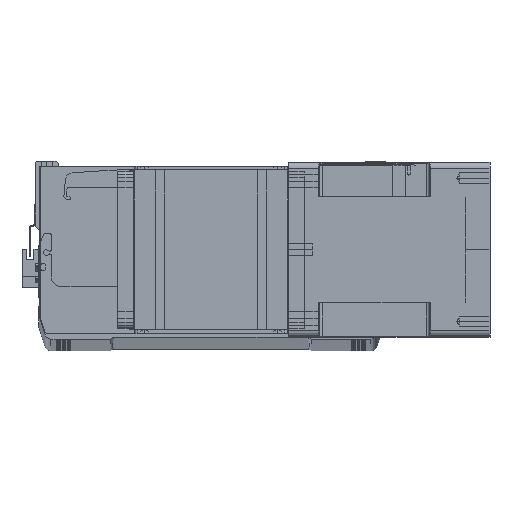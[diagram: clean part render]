
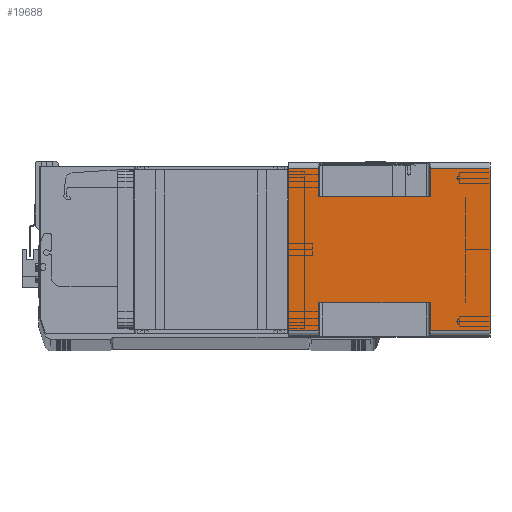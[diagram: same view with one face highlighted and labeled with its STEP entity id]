
A CAD part, top view. The second image highlights one B-rep face of the part: STEP entity #19688.
In plain terms, the highlighted planar face has unit normal (0, 0, 1) as drawn and (1, 0, 0) by its records, which use the part's own axes.
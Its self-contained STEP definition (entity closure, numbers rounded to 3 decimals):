
#141 = DIRECTION ( 'NONE',  ( 0., 0., 1. ) ) ;
#364 = LINE ( 'NONE', #34054, #32592 ) ;
#416 = LINE ( 'NONE', #16275, #1408 ) ;
#656 = VERTEX_POINT ( 'NONE', #5210 ) ;
#716 = LINE ( 'NONE', #34697, #8170 ) ;
#762 = EDGE_CURVE ( 'NONE', #12448, #656, #7923, .T. ) ;
#1408 = VECTOR ( 'NONE', #22645, 1000. ) ;
#1857 = CARTESIAN_POINT ( 'NONE',  ( 71., -66., -24.5 ) ) ;
#3223 = EDGE_CURVE ( 'NONE', #37492, #8177, #14993, .T. ) ;
#3240 = CARTESIAN_POINT ( 'NONE',  ( 71., 66., 0. ) ) ;
#3794 = EDGE_CURVE ( 'NONE', #39818, #7992, #38166, .T. ) ;
#4359 = EDGE_CURVE ( 'NONE', #18501, #10199, #416, .T. ) ;
#4501 = VECTOR ( 'NONE', #27145, 1000. ) ;
#5206 = ORIENTED_EDGE ( 'NONE', *, *, #35866, .F. ) ;
#5210 = CARTESIAN_POINT ( 'NONE',  ( 71., 43., -115.5 ) ) ;
#5257 = DIRECTION ( 'NONE',  ( 0., 0., 1. ) ) ;
#5311 = CARTESIAN_POINT ( 'NONE',  ( 71., -43., -164. ) ) ;
#5693 = VECTOR ( 'NONE', #34926, 1000. ) ;
#7303 = LINE ( 'NONE', #17532, #18590 ) ;
#7923 = LINE ( 'NONE', #8792, #15265 ) ;
#7981 = VERTEX_POINT ( 'NONE', #33861 ) ;
#7992 = VERTEX_POINT ( 'NONE', #21860 ) ;
#8170 = VECTOR ( 'NONE', #9602, 1000. ) ;
#8177 = VERTEX_POINT ( 'NONE', #38381 ) ;
#8792 = CARTESIAN_POINT ( 'NONE',  ( 71., 43., -115.5 ) ) ;
#9143 = ORIENTED_EDGE ( 'NONE', *, *, #18722, .T. ) ;
#9370 = EDGE_CURVE ( 'NONE', #8177, #12448, #14843, .T. ) ;
#9425 = DIRECTION ( 'NONE',  ( 1., 0., 0. ) ) ;
#9438 = FACE_OUTER_BOUND ( 'NONE', #11247, .T. ) ;
#9602 = DIRECTION ( 'NONE',  ( 0., 1., 0. ) ) ;
#9700 = CARTESIAN_POINT ( 'NONE',  ( 71., -66., -164. ) ) ;
#10199 = VERTEX_POINT ( 'NONE', #22050 ) ;
#11106 = DIRECTION ( 'NONE',  ( 0., 0., 1. ) ) ;
#11247 = EDGE_LOOP ( 'NONE', ( #13916, #34101, #5206, #17213, #39223, #28610, #37716, #39077, #9143, #21667, #12091, #23355 ) ) ;
#11448 = CARTESIAN_POINT ( 'NONE',  ( 71., -66., -164. ) ) ;
#12091 = ORIENTED_EDGE ( 'NONE', *, *, #34476, .F. ) ;
#12170 = CARTESIAN_POINT ( 'NONE',  ( 71., 43., -164. ) ) ;
#12448 = VERTEX_POINT ( 'NONE', #39377 ) ;
#13245 = LINE ( 'NONE', #19464, #35037 ) ;
#13355 = EDGE_CURVE ( 'NONE', #39701, #10199, #24407, .T. ) ;
#13760 = CARTESIAN_POINT ( 'NONE',  ( 71., 43., -24.5 ) ) ;
#13916 = ORIENTED_EDGE ( 'NONE', *, *, #13355, .F. ) ;
#14843 = LINE ( 'NONE', #19029, #22268 ) ;
#14993 = LINE ( 'NONE', #11448, #27860 ) ;
#15265 = VECTOR ( 'NONE', #30908, 1000. ) ;
#16275 = CARTESIAN_POINT ( 'NONE',  ( 71., -43., -24.5 ) ) ;
#16625 = CARTESIAN_POINT ( 'NONE',  ( 71., -43., -115.5 ) ) ;
#17099 = VECTOR ( 'NONE', #34373, 1000. ) ;
#17213 = ORIENTED_EDGE ( 'NONE', *, *, #3223, .T. ) ;
#17532 = CARTESIAN_POINT ( 'NONE',  ( 71., -66., -164. ) ) ;
#17861 = VERTEX_POINT ( 'NONE', #3240 ) ;
#18501 = VERTEX_POINT ( 'NONE', #25585 ) ;
#18590 = VECTOR ( 'NONE', #23839, 1000. ) ;
#18722 = EDGE_CURVE ( 'NONE', #7992, #17861, #39368, .T. ) ;
#19029 = CARTESIAN_POINT ( 'NONE',  ( 71., 66., -164. ) ) ;
#19290 = DIRECTION ( 'NONE',  ( 0., 1., 0. ) ) ;
#19464 = CARTESIAN_POINT ( 'NONE',  ( 71., -66., -115.5 ) ) ;
#19688 = ADVANCED_FACE ( 'NONE', ( #9438 ), #31964, .T. ) ;
#19929 = VECTOR ( 'NONE', #11106, 1000. ) ;
#21124 = EDGE_CURVE ( 'NONE', #39818, #656, #40972, .T. ) ;
#21667 = ORIENTED_EDGE ( 'NONE', *, *, #26299, .F. ) ;
#21860 = CARTESIAN_POINT ( 'NONE',  ( 71., 66., -24.5 ) ) ;
#22050 = CARTESIAN_POINT ( 'NONE',  ( 71., -43., -24.5 ) ) ;
#22268 = VECTOR ( 'NONE', #141, 1000. ) ;
#22645 = DIRECTION ( 'NONE',  ( 0., 1., 0. ) ) ;
#23355 = ORIENTED_EDGE ( 'NONE', *, *, #4359, .T. ) ;
#23611 = DIRECTION ( 'NONE',  ( 0., 1., 0. ) ) ;
#23839 = DIRECTION ( 'NONE',  ( 0., 0., 1. ) ) ;
#24407 = LINE ( 'NONE', #5311, #19929 ) ;
#24563 = CARTESIAN_POINT ( 'NONE',  ( 71., -66., -164. ) ) ;
#25473 = DIRECTION ( 'NONE',  ( 0., -1., 0. ) ) ;
#25585 = CARTESIAN_POINT ( 'NONE',  ( 71., -66., -24.5 ) ) ;
#26299 = EDGE_CURVE ( 'NONE', #39082, #17861, #716, .T. ) ;
#27145 = DIRECTION ( 'NONE',  ( 0., 1., 0. ) ) ;
#27860 = VECTOR ( 'NONE', #23611, 1000. ) ;
#28610 = ORIENTED_EDGE ( 'NONE', *, *, #762, .T. ) ;
#30908 = DIRECTION ( 'NONE',  ( 0., -1., 0. ) ) ;
#31964 = PLANE ( 'NONE',  #40254 ) ;
#32592 = VECTOR ( 'NONE', #5257, 1000. ) ;
#33861 = CARTESIAN_POINT ( 'NONE',  ( 71., -66., -115.5 ) ) ;
#34054 = CARTESIAN_POINT ( 'NONE',  ( 71., -66., -164. ) ) ;
#34101 = ORIENTED_EDGE ( 'NONE', *, *, #34744, .T. ) ;
#34373 = DIRECTION ( 'NONE',  ( 0., 0., -1. ) ) ;
#34476 = EDGE_CURVE ( 'NONE', #18501, #39082, #364, .T. ) ;
#34697 = CARTESIAN_POINT ( 'NONE',  ( 71., -66., 0. ) ) ;
#34744 = EDGE_CURVE ( 'NONE', #39701, #7981, #13245, .T. ) ;
#34926 = DIRECTION ( 'NONE',  ( 0., 0., 1. ) ) ;
#35037 = VECTOR ( 'NONE', #25473, 1000. ) ;
#35866 = EDGE_CURVE ( 'NONE', #37492, #7981, #7303, .T. ) ;
#37492 = VERTEX_POINT ( 'NONE', #24563 ) ;
#37655 = CARTESIAN_POINT ( 'NONE',  ( 71., 66., -164. ) ) ;
#37716 = ORIENTED_EDGE ( 'NONE', *, *, #21124, .F. ) ;
#38166 = LINE ( 'NONE', #1857, #4501 ) ;
#38381 = CARTESIAN_POINT ( 'NONE',  ( 71., 66., -164. ) ) ;
#39077 = ORIENTED_EDGE ( 'NONE', *, *, #3794, .T. ) ;
#39082 = VERTEX_POINT ( 'NONE', #40736 ) ;
#39223 = ORIENTED_EDGE ( 'NONE', *, *, #9370, .T. ) ;
#39368 = LINE ( 'NONE', #37655, #5693 ) ;
#39377 = CARTESIAN_POINT ( 'NONE',  ( 71., 66., -115.5 ) ) ;
#39701 = VERTEX_POINT ( 'NONE', #16625 ) ;
#39818 = VERTEX_POINT ( 'NONE', #13760 ) ;
#40254 = AXIS2_PLACEMENT_3D ( 'NONE', #9700, #9425, #19290 ) ;
#40736 = CARTESIAN_POINT ( 'NONE',  ( 71., -66., 0. ) ) ;
#40972 = LINE ( 'NONE', #12170, #17099 ) ;
